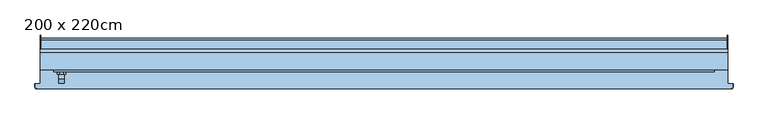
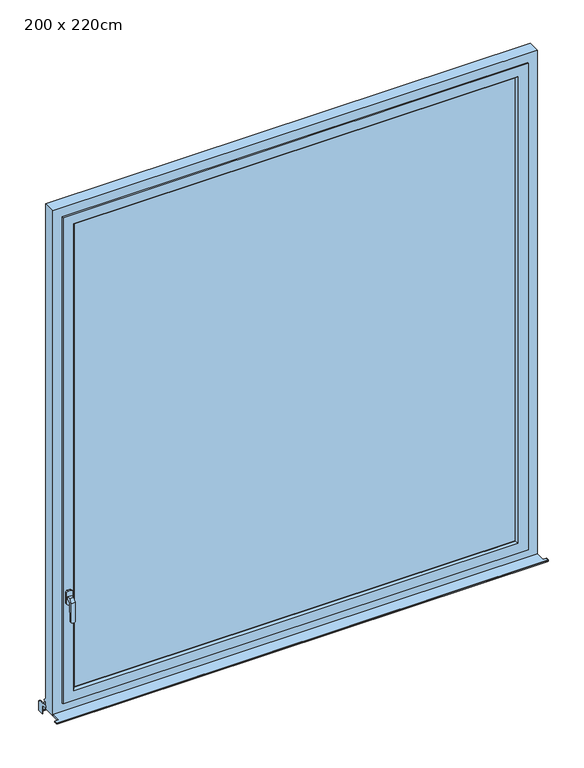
"""IFC4 building model written with IfcOpenShell, lengths in millimetres: window geometry, Fenêtre type 1 : 200 x 220cm."""

from ifc_helpers import new_model, si_unit, frame, origin, place, context, project, spatial, polyline, circle_curve, outline, extrude, faceted_brep, source, transform, mapped, element, save
from ifc_brep_helpers import plane_surface, cylinder_surface, revolved_surface, advanced_brep


def window_200_x_220cm_37bbfe6a(model_context):
    return source(origin(), model_context, "Body", "SolidModel", [
        faceted_brep([(-945.5, -23.0, 1306.0), (-929.5, -23.0, 1306.0), (-929.5, -23.0, 1294.0), (-945.5, -23.0, 1294.0), (-945.5, -35.4852814, 1306.0), (-929.5, -35.4852814, 1306.0), (-929.5, -49.0, 1292.4852814), (-929.5, -49.0, 1208.5355339), (-929.5, -39.7580139, 1208.5355339), (-929.5, -37.0099909, 1287.2286157), (-929.5, -37.0, 1287.5147186), (-929.5, -30.5147186, 1294.0), (-945.5, -30.5147186, 1294.0), (-945.5, -37.0, 1287.5147186), (-945.5, -37.0, 1287.2282668), (-945.5, -39.7580139, 1208.5355339), (-945.5, -49.0, 1208.5355339), (-945.5, -49.0, 1292.4852814), (-933.0355339, -49.0, 1205.0), (-941.9644661, -49.0, 1205.0), (-941.9644661, -39.8814775, 1205.0), (-933.0355339, -39.8814775, 1205.0)], [[[0, 1, 2, 3]], [[1, 0, 4, 5]], [[2, 1, 5, 6, 7, 8, 9, 10, 11]], [[3, 2, 11, 12]], [[0, 3, 12, 13, 14, 15, 16, 17, 4]], [[5, 4, 17, 6]], [[11, 10, 13, 12]], [[18, 19, 20, 21]], [[6, 17, 16, 19, 18, 7]], [[13, 10, 9, 14]], [[14, 9, 8, 21, 20, 15]], [[8, 7, 18, 21]], [[16, 15, 20, 19]]]),
        extrude(outline(polyline([(1330.0, -944.5), (1325.0, -949.5), (1275.0, -949.5), (1270.0, -944.5), (1270.0, -930.5), (1275.0, -925.5), (1325.0, -925.5), (1330.0, -930.5), (1330.0, -944.5)])), frame((0.0, -23.0, 0.0), z_axis=(0.0, 1.0, 0.0), x_axis=(0.0, 0.0, 1.0)), (0.0, 0.0, 1.0), 8.0),
        advanced_brep(
        [(-1000.0, 65.0, 762.0), (-1000.0, 65.0, 799.2138833), (-1000.0, 40.0, 800.5240778), (-1000.0, 40.0, 812.0398598), (-1000.0, 77.2850393, 810.0858337), (-1000.0, 91.5, 795.1063906), (-1000.0, 91.5, 762.0), (1000.0, 65.0, 799.2138833), (1000.0, 65.0, 762.0), (1000.0, 91.5, 762.0), (1000.0, 91.5, 795.1063906), (1000.0, 77.2850393, 810.0858337), (1000.0, 40.0, 812.0398598), (1000.0, 40.0, 800.5240778), (-998.0, 40.0, 812.0398598), (998.0, 40.0, 812.0398598), (998.0, 40.0, 802.0261363), (-998.0, 40.0, 802.0261363), (-998.0, 76.7616798, 800.0995383), (998.0, 76.7616798, 800.0995383), (998.0, 81.5, 795.1063906), (998.0, 81.5, 762.0), (-998.0, 81.5, 762.0), (-998.0, 81.5, 795.1063906), (-998.0, 80.0, 762.0), (-998.0, 65.0, 762.0), (-998.0, 91.5, 762.0), (998.0, 91.5, 762.0), (998.0, 65.0, 762.0), (998.0, 80.0, 762.0), (-998.0, 70.0, 772.0), (998.0, 70.0, 772.0), (-998.0, 71.0606602, 773.0606602), (998.0, 71.0606602, 773.0606602), (-998.0, 80.0, 764.1213203), (998.0, 80.0, 764.1213203), (-998.0, 80.0, 795.0728058), (998.0, 80.0, 795.0728058), (-998.0, 65.0, 799.2138833), (-998.0, 76.649637, 798.6033517), (998.0, 76.649637, 798.6033517), (998.0, 65.0, 799.2138833), (998.0, 77.2850393, 810.0858337), (998.0, 91.5, 795.1063906), (-998.0, 91.5, 795.1063906), (-998.0, 77.2850393, 810.0858337)],
        [
            (0, 1),
            (1, 2),
            (2, 3),
            (3, 4),
            (4, 5, circle_curve(frame((-1000.0, 76.5, 795.1063906), z_axis=(-1.0, 0.0, 0.0), x_axis=(0.0, 0.052335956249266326, 0.9986295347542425)), 15.0)),
            (5, 6),
            (6, 0),
            (7, 8),
            (8, 9),
            (9, 10),
            (10, 11, circle_curve(frame((1000.0, 76.5, 795.1063906), z_axis=(1.0, 0.0, 0.0), x_axis=(0.0, 1.0, 0.0)), 15.0)),
            (11, 12),
            (12, 13),
            (13, 7),
            (14, 3),
            (2, 13),
            (12, 15),
            (15, 16),
            (16, 17),
            (17, 14),
            (18, 17),
            (16, 19),
            (19, 18),
            (20, 21),
            (21, 22),
            (22, 23),
            (23, 20),
            (24, 25),
            (25, 0),
            (6, 26),
            (26, 22),
            (21, 27),
            (27, 9),
            (8, 28),
            (28, 29),
            (29, 24),
            (30, 24),
            (29, 31),
            (31, 30),
            (32, 30),
            (31, 33),
            (33, 32),
            (34, 32),
            (33, 35),
            (35, 34),
            (36, 34),
            (35, 37),
            (37, 36),
            (38, 39),
            (39, 40),
            (40, 41),
            (41, 7),
            (1, 38),
            (38, 25),
            (36, 39, circle_curve(frame((-998.0, 76.4646089, 795.0728058), z_axis=(1.0, 0.0, 0.0), x_axis=(0.0, -1.0, 0.0)), 3.5353911)),
            (28, 41),
            (40, 37, circle_curve(frame((998.0, 76.4646089, 795.0728058), z_axis=(-1.0, 0.0, 0.0), x_axis=(0.0, -1.0, 0.0)), 3.5353911)),
            (19, 20, circle_curve(frame((998.0, 76.5, 795.1063906), z_axis=(-1.0, 0.0, 0.0), x_axis=(0.0, -1.0, 0.0)), 5.0)),
            (23, 18, circle_curve(frame((-998.0, 76.5, 795.1063906), z_axis=(1.0, 0.0, 0.0), x_axis=(0.0, -1.0, 0.0)), 5.0)),
            (15, 42),
            (42, 43, circle_curve(frame((998.0, 76.5, 795.1063906), z_axis=(-1.0, 0.0, 0.0), x_axis=(0.0, 1.0, 0.0)), 15.0)),
            (43, 27),
            (43, 10),
            (42, 11),
            (26, 44),
            (44, 45, circle_curve(frame((-998.0, 76.5, 795.1063906), z_axis=(1.0, 0.0, 0.0), x_axis=(0.0, 0.052335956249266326, 0.9986295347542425)), 15.0)),
            (45, 14),
            (45, 4),
            (44, 5),
        ],
        [
            plane_surface(frame((-1000.0, 40.0, 800.5240778), z_axis=(-1.0, 0.0, 0.0), x_axis=(0.0, 0.0, 1.0))),
            plane_surface(frame((1000.0, 40.0, 800.5240778), z_axis=(1.0, 0.0, 0.0), x_axis=(0.0, 0.0, -1.0))),
            plane_surface(frame((-1000.0, 40.0, 800.5240778), z_axis=(0.0, -1.0, 0.0), x_axis=(1.0, 0.0, 0.0))),
            plane_surface(frame((-1000.0, 40.0, 802.0261363), z_axis=(0.0, 0.05233595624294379, 0.9986295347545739), x_axis=(1.0, 0.0, 0.0))),
            plane_surface(frame((-1000.0, 81.5, 795.1063906), z_axis=(0.0, 1.0, 0.0), x_axis=(1.0, 0.0, 0.0))),
            plane_surface(frame((-1000.0, 81.5, 762.0), z_axis=(0.0, 0.0, -1.0), x_axis=(1.0, 0.0, 0.0))),
            plane_surface(frame((-1000.0, 80.0, 762.0), z_axis=(0.0, -0.7071067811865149, -0.7071067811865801), x_axis=(1.0, 0.0, 0.0))),
            plane_surface(frame((-1000.0, 70.0, 772.0), z_axis=(0.0, -0.7071067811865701, 0.707106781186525), x_axis=(1.0, 0.0, 0.0))),
            plane_surface(frame((-1000.0, 71.0606602, 773.0606602), z_axis=(0.0, 0.707106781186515, 0.70710678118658), x_axis=(1.0, 0.0, 0.0))),
            plane_surface(frame((-1000.0, 80.0, 764.1213203), z_axis=(0.0, -1.0, 0.0), x_axis=(1.0, 0.0, 0.0))),
            plane_surface(frame((-1000.0, 76.649637, 798.6033517), z_axis=(0.0, -0.052335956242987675, -0.9986295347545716), x_axis=(1.0, 0.0, 0.0))),
            plane_surface(frame((-998.0, 80.0, 798.4277666), z_axis=(1.0, 0.0, 0.0), x_axis=(0.0, -0.9986295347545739, 0.05233595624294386))),
            plane_surface(frame((-1000.0, 65.0, 762.0), z_axis=(0.0, -1.0, 0.0), x_axis=(1.0, 0.0, 0.0))),
            plane_surface(frame((998.0, 80.0, 798.4277666), z_axis=(-1.0, 0.0, 0.0), x_axis=(0.0, 0.0, -1.0))),
            plane_surface(frame((998.0, 65.0, 762.0), z_axis=(0.0, -1.0, 0.0), x_axis=(1.0, 0.0, 0.0))),
            cylinder_surface(frame((1000.0, 76.5, 795.1063906), z_axis=(-1.0, 0.0, 0.0), x_axis=(0.0, -1.0, 0.0)), 5.0),
            revolved_surface(polyline([(998.0, 72.9292178, 795.0728058), (-998.0, 72.9292178, 795.0728058)]), (1000.0, 76.4646089, 795.0728058), (1.0, 0.0, 0.0)),
            plane_surface(frame((998.0, 81.5, 762.0), z_axis=(-1.0, 0.0, 0.0), x_axis=(0.0, 0.0, 1.0))),
            plane_surface(frame((998.0, 91.5, 762.0), z_axis=(0.0, 1.0, 0.0), x_axis=(0.0, 0.0, 1.0))),
            cylinder_surface(frame((1000.0, 76.5, 795.1063906), z_axis=(1.0, 0.0, 0.0), x_axis=(0.0, 1.0, 0.0)), 15.0),
            plane_surface(frame((998.0, 77.2850393, 810.0858337), z_axis=(0.0, 0.052335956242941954, 0.998629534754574), x_axis=(0.0, -0.998629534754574, 0.052335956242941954))),
            plane_surface(frame((-998.0, 40.0, 812.0398598), z_axis=(1.0, 0.0, 0.0), x_axis=(0.0, -0.9986295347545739, 0.05233595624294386))),
            plane_surface(frame((-1000.0, 40.0, 812.0398598), z_axis=(0.0, 0.05233595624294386, 0.9986295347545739), x_axis=(1.0, 0.0, 0.0))),
            cylinder_surface(frame((-1000.0, 76.5, 795.1063906), z_axis=(-1.0, 0.0, 0.0), x_axis=(0.0, 0.052335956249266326, 0.9986295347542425)), 15.0),
            plane_surface(frame((-998.0, 91.5, 795.1063906), z_axis=(0.0, 1.0, 0.0), x_axis=(0.0, 0.0, -1.0))),
        ],
        [
            (0, [[1, 2, 3, 4, 5, 6, 7]]),
            (1, [[8, 9, 10, 11, 12, 13, 14]]),
            (2, [[15, -3, 16, -13, 17, 18, 19, 20]]),
            (3, [[21, -19, 22, 23]]),
            (4, [[24, 25, 26, 27]]),
            (5, [[28, 29, -7, 30, 31, -25, 32, 33, -9, 34, 35, 36]]),
            (6, [[37, -36, 38, 39]]),
            (7, [[40, -39, 41, 42]]),
            (8, [[43, -42, 44, 45]]),
            (9, [[46, -45, 47, 48]]),
            (10, [[49, 50, 51, 52, -14, -16, -2, 53]]),
            (11, [[54, -28, -37, -40, -43, -46, 55, -49]]),
            (12, [[-54, -53, -1, -29]]),
            (13, [[-35, 56, -51, 57, -47, -44, -41, -38]]),
            (14, [[-56, -34, -8, -52]]),
            (15, [[58, -27, 59, -23]]),
            (16, [[-55, -48, -57, -50]]),
            (17, [[-32, -24, -58, -22, -18, 60, 61, 62]]),
            (18, [[-33, -62, 63, -10]]),
            (19, [[-11, -63, -61, 64]]),
            (20, [[-64, -60, -17, -12]]),
            (21, [[-20, -21, -59, -26, -31, 65, 66, 67]]),
            (22, [[-4, -15, -67, 68]]),
            (23, [[-5, -68, -66, 69]]),
            (24, [[-6, -69, -65, -30]]),
        ],
    ),
        extrude(outline(polyline([(-910.0, -5.0), (-910.0, 15.0), (910.0, 15.0), (910.0, -5.0), (-910.0, -5.0)])), frame((0.0, 0.0, 890.0), z_axis=(0.0, 0.0, 1.0), x_axis=(1.0, 0.0, 0.0)), (0.0, 0.0, 1.0), 2020.0),
        faceted_brep([(-960.0, -15.0, 840.0), (-960.0, 25.0, 840.0), (960.0, 25.0, 840.0), (960.0, -15.0, 840.0), (960.0, 25.0, 2960.0), (960.0, -15.0, 2960.0), (-960.0, 25.0, 2960.0), (917.0710678, 25.0, 2917.0710678), (-917.0710678, 25.0, 2917.0710678), (-917.0710678, 25.0, 882.9289322), (917.0710678, 25.0, 882.9289322), (-960.0, -15.0, 2960.0), (917.0710678, -15.0, 882.9289322), (-917.0710678, -15.0, 882.9289322), (-917.0710678, -15.0, 2917.0710678), (917.0710678, -15.0, 2917.0710678), (-910.0, -7.9289322, 890.0), (910.0, -7.9289322, 890.0), (910.0, -7.9289322, 2910.0), (910.0, 17.9289322, 890.0), (910.0, 17.9289322, 2910.0), (-910.0, 17.9289322, 890.0), (-910.0, -7.9289322, 2910.0), (-910.0, 17.9289322, 2910.0)], [[[0, 1, 2, 3]], [[3, 2, 4, 5]], [[2, 1, 6, 4], [7, 8, 9, 10]], [[5, 11, 0, 3], [12, 13, 14, 15]], [[16, 13, 12, 17]], [[17, 12, 15, 18]], [[19, 17, 18, 20]], [[9, 21, 19, 10]], [[10, 19, 20, 7]], [[11, 6, 1, 0]], [[22, 14, 13, 16]], [[23, 22, 16, 21]], [[8, 23, 21, 9]], [[21, 16, 17, 19]], [[5, 4, 6, 11]], [[18, 15, 14, 22]], [[7, 20, 23, 8]], [[20, 18, 22, 23]]]),
        faceted_brep([(1000.0, 40.0, 800.0), (1000.0, 40.0, 830.0), (1000.0, 50.0, 830.0), (1000.0, 50.0, 835.0), (1000.0, 40.0, 845.0), (1000.0, 40.0, 3000.0), (1000.0, -10.0, 3000.0), (1000.0, -10.0, 800.0), (-1000.0, 40.0, 800.0), (-1000.0, 40.0, 830.0), (-1000.0, 50.0, 830.0), (-1000.0, 50.0, 835.0), (-1000.0, 40.0, 845.0), (-955.0, 40.0, 845.0), (-950.0, 35.0, 850.0), (950.0, 35.0, 850.0), (955.0, 40.0, 845.0), (-1000.0, 40.0, 3000.0), (955.0, 40.0, 2955.0), (-955.0, 40.0, 2955.0), (-1000.0, -10.0, 3000.0), (-1000.0, -10.0, 800.0), (960.0, -10.0, 840.0), (-960.0, -10.0, 840.0), (-960.0, -10.0, 2960.0), (960.0, -10.0, 2960.0), (960.0, 25.0, 840.0), (-960.0, 25.0, 840.0), (-960.0, 25.0, 2960.0), (960.0, 25.0, 2960.0), (950.0, 25.0, 850.0), (-950.0, 25.0, 850.0), (-950.0, 25.0, 2950.0), (950.0, 25.0, 2950.0), (-950.0, 35.0, 2950.0), (950.0, 35.0, 2950.0)], [[[0, 1, 2, 3, 4, 5, 6, 7]], [[1, 0, 8, 9]], [[2, 1, 9, 10]], [[3, 2, 10, 11]], [[3, 11, 12, 13, 14, 15, 16, 4]], [[17, 5, 4, 16, 18, 19, 13, 12]], [[7, 6, 20, 21], [22, 23, 24, 25]], [[0, 7, 21, 8]], [[8, 21, 20, 17, 12, 11, 10, 9]], [[23, 22, 26, 27]], [[27, 28, 24, 23]], [[22, 25, 29, 26]], [[29, 28, 27, 26], [30, 31, 32, 33]], [[31, 30, 15, 14]], [[34, 32, 31, 14]], [[33, 35, 15, 30]], [[35, 18, 16, 15]], [[19, 34, 14, 13]], [[28, 29, 25, 24]], [[5, 17, 20, 6]], [[33, 32, 34, 35]], [[19, 18, 35, 34]]]),
        advanced_brep(
        [(1000.0, -50.0, 805.0), (1000.0, -10.0, 805.0), (-1000.0, -10.0, 805.0), (-1000.0, -50.0, 805.0), (-1013.9971508, -50.0, 805.0), (-1013.9971508, -60.0, 805.0), (-1010.0, -63.9971508, 805.0), (1010.0, -63.9971508, 805.0), (1013.9971508, -60.0, 805.0), (1013.9971508, -50.0, 805.0), (-1000.0, -50.0, 800.0), (-1000.0, -10.0, 800.0), (1000.0, -10.0, 800.0), (1000.0, -50.0, 800.0), (1013.9971508, -50.0, 800.0), (1013.9971508, -60.0, 800.0), (1010.0, -63.9971508, 800.0), (-1010.0, -63.9971508, 800.0), (-1013.9971508, -60.0, 800.0), (-1013.9971508, -50.0, 800.0), (-1015.0, -60.0, 801.0028492), (-1015.0, -60.0, 803.9971508), (-1015.0, -50.0, 803.9971508), (-1015.0, -50.0, 801.0028492), (1015.0, -50.0, 803.9971508), (1015.0, -50.0, 801.0028492), (1015.0, -60.0, 803.9971508), (1015.0, -60.0, 801.0028492), (1010.0, -65.0, 801.0028492), (1010.0, -65.0, 803.9971508), (-1010.0, -65.0, 803.9971508), (-1010.0, -65.0, 801.0028492)],
        [
            (0, 1),
            (1, 2),
            (2, 3),
            (3, 4),
            (4, 5),
            (5, 6, circle_curve(frame((-1010.0, -60.0, 805.0), z_axis=(0.0, 0.0, 1.0), x_axis=(-1.0, 0.0, 0.0)), 3.9971508)),
            (6, 7),
            (7, 8, circle_curve(frame((1010.0, -60.0, 805.0), z_axis=(0.0, 0.0, 1.0), x_axis=(0.0, -1.0, 0.0)), 3.9971508)),
            (8, 9),
            (9, 0),
            (10, 11),
            (11, 12),
            (12, 13),
            (13, 14),
            (14, 15),
            (15, 16, circle_curve(frame((1010.0, -60.0, 800.0), z_axis=(0.0, 0.0, -1.0), x_axis=(0.0, -1.0, 0.0)), 3.9971508)),
            (16, 17),
            (17, 18, circle_curve(frame((-1010.0, -60.0, 800.0), z_axis=(0.0, 0.0, -1.0), x_axis=(-1.0, 0.0, 0.0)), 3.9971508)),
            (18, 19),
            (19, 10),
            (20, 21),
            (21, 22),
            (22, 23),
            (23, 20),
            (3, 10),
            (19, 23),
            (22, 4),
            (2, 11),
            (1, 12),
            (0, 13),
            (9, 24),
            (24, 25),
            (25, 14),
            (24, 26),
            (26, 27),
            (27, 25),
            (28, 29),
            (29, 30),
            (30, 31),
            (31, 28),
            (28, 27, circle_curve(frame((1010.0, -60.0, 801.0028492), z_axis=(0.0, 0.0, 1.0), x_axis=(0.0, -1.0, 0.0)), 5.0)),
            (26, 29, circle_curve(frame((1010.0, -60.0, 803.9971508), z_axis=(0.0, 0.0, -1.0), x_axis=(0.0, -1.0, 0.0)), 5.0)),
            (20, 31, circle_curve(frame((-1010.0, -60.0, 801.0028492), z_axis=(0.0, 0.0, 1.0), x_axis=(0.0, -1.0, 0.0)), 5.0)),
            (30, 21, circle_curve(frame((-1010.0, -60.0, 803.9971508), z_axis=(0.0, 0.0, -1.0), x_axis=(0.0, -1.0, 0.0)), 5.0)),
            (21, 5),
            (18, 20),
            (30, 6),
            (17, 31),
            (29, 7),
            (16, 28),
            (26, 8),
            (15, 27),
        ],
        [
            plane_surface(frame((-1015.0, -50.0, 805.0), z_axis=(0.0, 0.0, 1.0), x_axis=(0.0, -1.0, 0.0))),
            plane_surface(frame((-1015.0, -50.0, 800.0), z_axis=(0.0, 0.0, -1.0), x_axis=(0.0, 1.0, 0.0))),
            plane_surface(frame((-1015.0, -60.0, 800.0), z_axis=(-1.0, 0.0, 0.0), x_axis=(0.0, 0.0, 1.0))),
            plane_surface(frame((-1015.0, -50.0, 800.0), z_axis=(0.0, 1.0, 0.0), x_axis=(0.0, 0.0, 1.0))),
            plane_surface(frame((-1000.0, -50.0, 800.0), z_axis=(-1.0, 0.0, 0.0), x_axis=(0.0, 0.0, 1.0))),
            plane_surface(frame((-1000.0, -10.0, 800.0), z_axis=(0.0, 1.0, 0.0), x_axis=(0.0, 0.0, 1.0))),
            plane_surface(frame((1000.0, -10.0, 800.0), z_axis=(1.0, 0.0, 0.0), x_axis=(0.0, 0.0, 1.0))),
            plane_surface(frame((1000.0, -50.0, 800.0), z_axis=(0.0, 1.0, 0.0), x_axis=(0.0, 0.0, 1.0))),
            plane_surface(frame((1015.0, -50.0, 800.0), z_axis=(1.0, 0.0, 0.0), x_axis=(0.0, 0.0, 1.0))),
            plane_surface(frame((1010.0, -65.0, 800.0), z_axis=(0.0, -1.0, 0.0), x_axis=(0.0, 0.0, 1.0))),
            cylinder_surface(frame((1010.0, -60.0, 805.0), z_axis=(0.0, 0.0, -1.0), x_axis=(0.0, -1.0, 0.0)), 5.0),
            cylinder_surface(frame((-1010.0, -60.0, 805.0), z_axis=(0.0, 0.0, -1.0), x_axis=(0.0, -1.0, 0.0)), 5.0),
            plane_surface(frame((-1013.9971508, -50.0, 805.0), z_axis=(-0.7071067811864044, 0.0, 0.7071067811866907), x_axis=(0.0, -1.0, 0.0))),
            plane_surface(frame((-1015.0, -50.0, 801.0028492), z_axis=(-0.7071067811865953, 0.0, -0.7071067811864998), x_axis=(0.0, -1.0, 0.0))),
            revolved_surface(polyline([(-1015.0, -60.0, 803.9971508), (-1013.9971508, -60.0, 805.0)]), (-1010.0, -60.0, 805.0), (0.0, 0.0, 1.0)),
            revolved_surface(polyline([(-1013.9971508, -60.0, 800.0), (-1015.0, -60.0, 801.0028492)]), (-1010.0, -60.0, 805.0), (0.0, 0.0, 1.0)),
            plane_surface(frame((-1010.0, -63.9971508, 805.0), z_axis=(0.0, -0.7071067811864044, 0.7071067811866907), x_axis=(1.0, 0.0, 0.0))),
            plane_surface(frame((-1010.0, -65.0, 801.0028492), z_axis=(0.0, -0.7071067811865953, -0.7071067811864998), x_axis=(1.0, 0.0, 0.0))),
            revolved_surface(polyline([(1010.0, -65.0, 803.9971508), (1010.0, -63.9971508, 805.0)]), (1010.0, -60.0, 805.0), (0.0, 0.0, 1.0)),
            revolved_surface(polyline([(1010.0, -63.9971508, 800.0), (1010.0, -65.0, 801.0028492)]), (1010.0, -60.0, 805.0), (0.0, 0.0, 1.0)),
            plane_surface(frame((1013.9971508, -60.0, 805.0), z_axis=(0.7071067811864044, 0.0, 0.7071067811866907), x_axis=(0.0, 1.0, 0.0))),
            plane_surface(frame((1015.0, -60.0, 801.0028492), z_axis=(0.7071067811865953, 0.0, -0.7071067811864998), x_axis=(0.0, 1.0, 0.0))),
        ],
        [
            (0, [[1, 2, 3, 4, 5, 6, 7, 8, 9, 10]]),
            (1, [[11, 12, 13, 14, 15, 16, 17, 18, 19, 20]]),
            (2, [[21, 22, 23, 24]]),
            (3, [[25, -20, 26, -23, 27, -4]]),
            (4, [[-3, 28, -11, -25]]),
            (5, [[-2, 29, -12, -28]]),
            (6, [[-1, 30, -13, -29]]),
            (7, [[-30, -10, 31, 32, 33, -14]]),
            (8, [[-32, 34, 35, 36]]),
            (9, [[37, 38, 39, 40]]),
            (10, [[-37, 41, -35, 42]]),
            (11, [[-21, 43, -39, 44]]),
            (12, [[45, -5, -27, -22]]),
            (13, [[46, -24, -26, -19]]),
            (14, [[-45, -44, 47, -6]]),
            (15, [[-46, -18, 48, -43]]),
            (16, [[-47, -38, 49, -7]]),
            (17, [[-48, -17, 50, -40]]),
            (18, [[-49, -42, 51, -8]]),
            (19, [[-50, -16, 52, -41]]),
            (20, [[-51, -34, -31, -9]]),
            (21, [[-52, -15, -33, -36]]),
        ],
    ),
    ])


if __name__ == "__main__":
    model = new_model("IFC4")
    model_context = context("Model", 3, world=origin())
    ifc_project = project(units=[si_unit("LENGTHUNIT", "METRE", prefix="MILLI")], contexts=[model_context])
    site = spatial("IfcSite", under=ifc_project)
    building = spatial("IfcBuilding", under=site)
    placement = place(None, origin())
    window_200_x_220cm_shape = window_200_x_220cm_37bbfe6a(model_context)
    element("IfcWindow", 1, ObjectType="Fenêtre type 1 : 200 x 220cm", at=placement, inside=building, context=model_context, shape_type="MappedRepresentation", body=[
        mapped(window_200_x_220cm_shape, transform((0.0, 0.0, 0.0), x_axis=(1.0, 0.0, 0.0), y_axis=(0.0, 1.0, 0.0), z_axis=(0.0, 0.0, 1.0))),
    ])
    save(model, "model.ifc")
